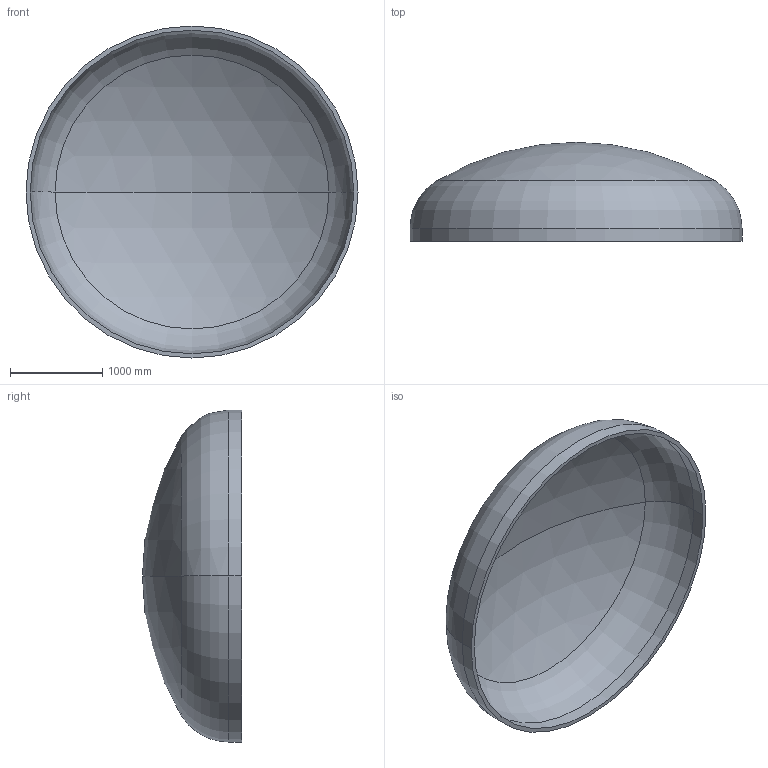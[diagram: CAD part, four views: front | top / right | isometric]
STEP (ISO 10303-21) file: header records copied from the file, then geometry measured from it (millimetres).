
FILE_DESCRIPTION (( 'STEP AP203' ), '1' );
FILE_NAME ('DIN 28013 Korbbogenform_-_Boden DIN 28013 - 3600 x 140 - I - s=46.step', '2016-07-01T20:28:44', ( '' ), ( '' ), 'SwSTEP 2.0', 'SolidWorks 2013', '' );
FILE_SCHEMA (( 'CONFIG_CONTROL_DESIGN' ));
Length unit declared in the file: millimetre
Products named in the file (1): DIN 28013 Korbbogenform_-_Boden DIN 28013 - 3600 x 140 - I - s=46
Bounding box: 3600 x 1074.01 x 3600 mm (x, y, z)
Volume: 709660742 mm3; surface area: 31372835.8 mm2
Topology: 1 solids, 1 shells, 13 faces, 24 edges, 14 vertices
Faces by surface type: torus 4, cylinder 4, sphere 4, plane 1
Entity records: 407 total; most frequent: DIRECTION 72, CARTESIAN_POINT 52, ORIENTED_EDGE 48, AXIS2_PLACEMENT_3D 34, EDGE_CURVE 24, CIRCLE 20, VERTEX_POINT 14, EDGE_LOOP 14
